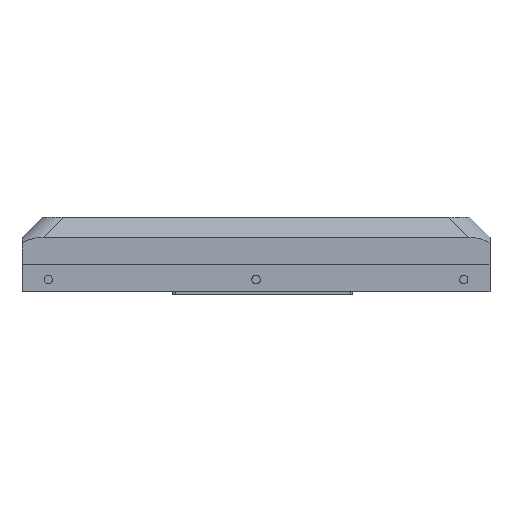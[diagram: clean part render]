
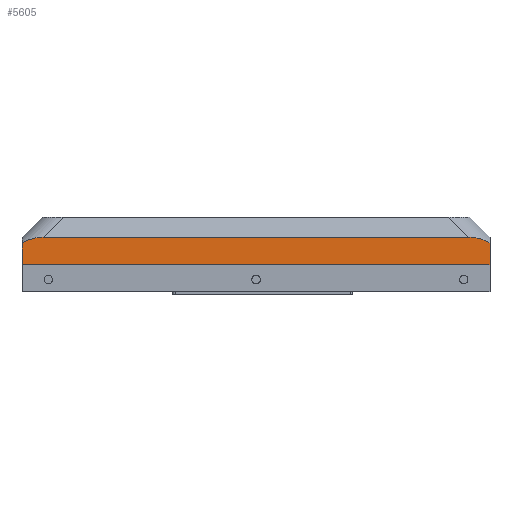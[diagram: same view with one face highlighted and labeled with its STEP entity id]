
A CAD part, left-side view. The second image highlights one B-rep face of the part: STEP entity #5605.
In plain terms, the highlighted planar face has unit normal (-1, 0, 0).
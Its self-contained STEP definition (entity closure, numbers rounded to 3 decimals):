
#602=CARTESIAN_POINT('',(-5.046,93.414,11.813));
#994=CARTESIAN_POINT('',(-5.045,-0.088,
11.813));
#1180=DIRECTION('',(0.,0.,1.));
#1181=VECTOR('',#1180,4.363);
#1182=CARTESIAN_POINT('',(-5.045,-0.088,7.45));
#1183=LINE('',#1182,#1181);
#1187=CARTESIAN_POINT('',(-5.045,4.155,12.95));
#1188=CARTESIAN_POINT('',(-5.045,3.403,12.95));
#1189=CARTESIAN_POINT('',(-5.045,1.958,12.699));
#1190=CARTESIAN_POINT('',(-5.045,0.584,
12.149));
#1191=CARTESIAN_POINT('',(-5.045,-0.088,
11.813));
#1196=DIRECTION('',(0.,0.,1.));
#1197=VECTOR('',#1196,4.363);
#1198=CARTESIAN_POINT('',(-5.046,93.414,7.45));
#1199=LINE('',#1198,#1197);
#1203=CARTESIAN_POINT('',(-5.046,93.414,11.813));
#1204=CARTESIAN_POINT('',(-5.046,92.741,12.149));
#1205=CARTESIAN_POINT('',(-5.046,91.367,12.699));
#1206=CARTESIAN_POINT('',(-5.046,89.923,12.95));
#1207=CARTESIAN_POINT('',(-5.046,89.171,12.95));
#1212=DIRECTION('',(0.,-1.,0.));
#1213=VECTOR('',#1212,93.502);
#1214=CARTESIAN_POINT('',(-5.046,93.414,7.45));
#1215=LINE('',#1214,#1213);
#1435=DIRECTION('',(0.,1.,0.));
#1436=VECTOR('',#1435,85.016);
#1437=CARTESIAN_POINT('',(-5.045,4.155,12.95));
#1438=LINE('',#1437,#1436);
#4465=VERTEX_POINT('',#602);
#4466=CARTESIAN_POINT('',(-5.046,93.414,7.45));
#4467=VERTEX_POINT('',#4466);
#4489=CARTESIAN_POINT('',(-5.045,-0.088,7.45));
#4490=VERTEX_POINT('',#4489);
#4671=VERTEX_POINT('',#994);
#4761=VERTEX_POINT('',#1187);
#4765=VERTEX_POINT('',#1207);
#5589=CARTESIAN_POINT('',(-5.045,6.912,17.72));
#5590=DIRECTION('',(-1.,0.,0.));
#5591=DIRECTION('',(0.,1.,0.));
#5592=AXIS2_PLACEMENT_3D('',#5589,#5590,#5591);
#5593=PLANE('',#5592);
#5594=ORIENTED_EDGE('',*,*,#5578,.T.);
#5595=ORIENTED_EDGE('',*,*,#5567,.F.);
#5597=ORIENTED_EDGE('',*,*,#5596,.F.);
#5598=ORIENTED_EDGE('',*,*,#5198,.T.);
#5600=ORIENTED_EDGE('',*,*,#5599,.T.);
#5602=ORIENTED_EDGE('',*,*,#5601,.F.);
#5603=EDGE_LOOP('',(#5594,#5595,#5597,#5598,#5600,#5602));
#5604=FACE_OUTER_BOUND('',#5603,.F.);
#5605=ADVANCED_FACE('',(#5604),#5593,.T.);
#1192=B_SPLINE_CURVE_WITH_KNOTS('',3,(#1187,#1188,#1189,#1190,#1191),
.UNSPECIFIED.,.F.,.F.,(4,1,4),(0.,0.5,1.),.UNSPECIFIED.);
#1208=B_SPLINE_CURVE_WITH_KNOTS('',3,(#1203,#1204,#1205,#1206,#1207),
.UNSPECIFIED.,.F.,.F.,(4,1,4),(0.,0.5,1.),.UNSPECIFIED.);
#5198=EDGE_CURVE('',#4467,#4465,#1199,.T.);
#5567=EDGE_CURVE('',#4490,#4671,#1183,.T.);
#5578=EDGE_CURVE('',#4761,#4671,#1192,.T.);
#5596=EDGE_CURVE('',#4467,#4490,#1215,.T.);
#5599=EDGE_CURVE('',#4465,#4765,#1208,.T.);
#5601=EDGE_CURVE('',#4761,#4765,#1438,.T.);
